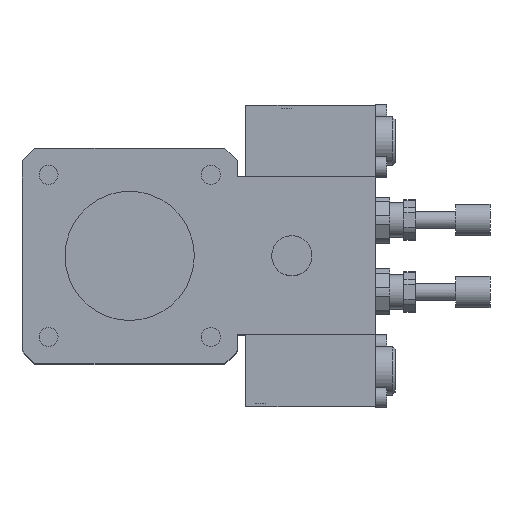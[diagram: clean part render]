
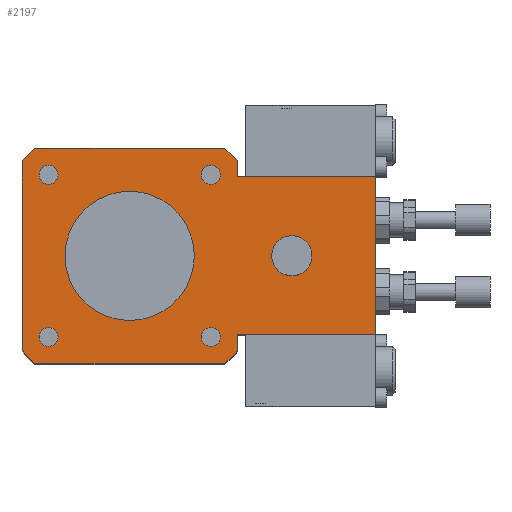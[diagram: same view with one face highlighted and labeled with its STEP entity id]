
A CAD part, top view. The second image highlights one B-rep face of the part: STEP entity #2197.
In plain terms, the highlighted planar face has unit normal (0, 0, 1).
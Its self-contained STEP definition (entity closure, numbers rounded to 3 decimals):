
#133=CARTESIAN_POINT('',(-28.25,24.927,196.0));
#134=VERTEX_POINT('',#133);
#135=CARTESIAN_POINT('',(-28.25,28.25,196.0));
#136=DIRECTION('',(0.0,0.0,-1.0));
#137=DIRECTION('',(0.0,-1.0,0.0));
#138=AXIS2_PLACEMENT_3D('',#135,#136,#137);
#139=CIRCLE('',#138,3.324);
#140=EDGE_CURVE('',#134,#134,#139,.T.);
#191=CARTESIAN_POINT('',(24.927,28.25,196.0));
#192=VERTEX_POINT('',#191);
#193=CARTESIAN_POINT('',(28.25,28.25,196.0));
#194=DIRECTION('',(0.0,0.0,-1.0));
#195=DIRECTION('',(-1.0,0.0,0.0));
#196=AXIS2_PLACEMENT_3D('',#193,#194,#195);
#197=CIRCLE('',#196,3.324);
#198=EDGE_CURVE('',#192,#192,#197,.T.);
#249=CARTESIAN_POINT('',(28.25,-24.927,196.0));
#250=VERTEX_POINT('',#249);
#251=CARTESIAN_POINT('',(28.25,-28.25,196.0));
#252=DIRECTION('',(0.0,0.0,-1.0));
#253=DIRECTION('',(0.0,1.0,0.0));
#254=AXIS2_PLACEMENT_3D('',#251,#252,#253);
#255=CIRCLE('',#254,3.324);
#256=EDGE_CURVE('',#250,#250,#255,.T.);
#307=CARTESIAN_POINT('',(-24.927,-28.25,196.0));
#308=VERTEX_POINT('',#307);
#309=CARTESIAN_POINT('',(-28.25,-28.25,196.0));
#310=DIRECTION('',(0.0,0.0,-1.0));
#311=DIRECTION('',(1.0,0.0,0.0));
#312=AXIS2_PLACEMENT_3D('',#309,#310,#311);
#313=CIRCLE('',#312,3.324);
#314=EDGE_CURVE('',#308,#308,#313,.T.);
#791=CARTESIAN_POINT('',(50.,0.0,196.0));
#792=VERTEX_POINT('',#791);
#793=CARTESIAN_POINT('',(56.5,0.0,196.0));
#794=DIRECTION('',(0.0,0.0,-1.0));
#795=DIRECTION('',(-1.0,0.0,0.0));
#796=AXIS2_PLACEMENT_3D('',#793,#794,#795);
#797=CIRCLE('',#796,6.5);
#798=EDGE_CURVE('',#792,#792,#797,.T.);
#1418=CARTESIAN_POINT('',(85.5,27.5,196.0));
#1419=VERTEX_POINT('',#1418);
#1444=CARTESIAN_POINT('',(37.5,27.5,196.0));
#1445=VERTEX_POINT('',#1444);
#1452=CARTESIAN_POINT('',(37.5,27.5,196.0));
#1453=DIRECTION('',(1.0,0.0,0.0));
#1454=VECTOR('',#1453,48.);
#1455=LINE('',#1452,#1454);
#1456=EDGE_CURVE('',#1445,#1419,#1455,.T.);
#1512=CARTESIAN_POINT('',(85.5,-27.5,196.0));
#1513=VERTEX_POINT('',#1512);
#1520=CARTESIAN_POINT('',(37.5,-27.5,196.0));
#1521=VERTEX_POINT('',#1520);
#1522=CARTESIAN_POINT('',(37.5,-27.5,196.0));
#1523=DIRECTION('',(1.0,0.0,0.0));
#1524=VECTOR('',#1523,48.);
#1525=LINE('',#1522,#1524);
#1526=EDGE_CURVE('',#1521,#1513,#1525,.T.);
#1581=CARTESIAN_POINT('',(85.5,-27.5,196.0));
#1582=DIRECTION('',(0.0,1.0,0.0));
#1583=VECTOR('',#1582,55.0);
#1584=LINE('',#1581,#1583);
#1585=EDGE_CURVE('',#1513,#1419,#1584,.T.);
#1604=CARTESIAN_POINT('',(37.5,-33.072,196.0));
#1605=VERTEX_POINT('',#1604);
#1606=CARTESIAN_POINT('',(37.5,-27.5,196.0));
#1607=DIRECTION('',(0.0,-1.0,0.0));
#1608=VECTOR('',#1607,5.572);
#1609=LINE('',#1606,#1608);
#1610=EDGE_CURVE('',#1521,#1605,#1609,.T.);
#1643=CARTESIAN_POINT('',(37.5,33.072,196.0));
#1644=VERTEX_POINT('',#1643);
#1651=CARTESIAN_POINT('',(37.5,33.072,196.0));
#1652=DIRECTION('',(0.0,-1.0,0.0));
#1653=VECTOR('',#1652,5.572);
#1654=LINE('',#1651,#1653);
#1655=EDGE_CURVE('',#1644,#1445,#1654,.T.);
#1682=CARTESIAN_POINT('',(-22.5,0.0,196.0));
#1683=VERTEX_POINT('',#1682);
#1684=CARTESIAN_POINT('',(0.0,0.0,196.0));
#1685=DIRECTION('',(0.0,0.0,-1.0));
#1686=DIRECTION('',(-1.0,0.0,0.0));
#1687=AXIS2_PLACEMENT_3D('',#1684,#1685,#1686);
#1688=CIRCLE('',#1687,22.5);
#1689=EDGE_CURVE('',#1683,#1683,#1688,.T.);
#1997=CARTESIAN_POINT('',(33.072,37.5,196.0));
#1998=VERTEX_POINT('',#1997);
#1999=CARTESIAN_POINT('',(0.,0.,196.0));
#2000=DIRECTION('',(0.,0.,-1.0));
#2001=DIRECTION('',(-0.75,-0.661,0.));
#2002=AXIS2_PLACEMENT_3D('',#1999,#2000,#2001);
#2003=CIRCLE('',#2002,50.0);
#2004=EDGE_CURVE('',#1998,#1644,#2003,.T.);
#2022=CARTESIAN_POINT('',(33.072,-37.5,196.0));
#2023=VERTEX_POINT('',#2022);
#2024=CARTESIAN_POINT('',(0.,0.,196.0));
#2025=DIRECTION('',(0.,0.,-1.));
#2026=DIRECTION('',(-0.661,0.75,0.));
#2027=AXIS2_PLACEMENT_3D('',#2024,#2025,#2026);
#2028=CIRCLE('',#2027,50.);
#2029=EDGE_CURVE('',#1605,#2023,#2028,.T.);
#2047=CARTESIAN_POINT('',(-33.072,-37.5,196.0));
#2048=VERTEX_POINT('',#2047);
#2049=CARTESIAN_POINT('',(33.072,-37.5,196.0));
#2050=DIRECTION('',(-1.0,0.0,0.0));
#2051=VECTOR('',#2050,66.144);
#2052=LINE('',#2049,#2051);
#2053=EDGE_CURVE('',#2023,#2048,#2052,.T.);
#2074=CARTESIAN_POINT('',(-37.5,-33.072,196.0));
#2075=VERTEX_POINT('',#2074);
#2076=CARTESIAN_POINT('',(0.,0.,196.0));
#2077=DIRECTION('',(0.,0.,-1.0));
#2078=DIRECTION('',(0.75,0.661,0.));
#2079=AXIS2_PLACEMENT_3D('',#2076,#2077,#2078);
#2080=CIRCLE('',#2079,50.);
#2081=EDGE_CURVE('',#2048,#2075,#2080,.T.);
#2099=CARTESIAN_POINT('',(-37.5,33.072,196.0));
#2100=VERTEX_POINT('',#2099);
#2101=CARTESIAN_POINT('',(-37.5,-33.072,196.0));
#2102=DIRECTION('',(0.0,1.0,0.0));
#2103=VECTOR('',#2102,66.144);
#2104=LINE('',#2101,#2103);
#2105=EDGE_CURVE('',#2075,#2100,#2104,.T.);
#2123=CARTESIAN_POINT('',(-33.072,37.5,196.0));
#2124=VERTEX_POINT('',#2123);
#2125=CARTESIAN_POINT('',(0.,0.,196.0));
#2126=DIRECTION('',(0.,0.,-1.));
#2127=DIRECTION('',(0.661,-0.75,0.));
#2128=AXIS2_PLACEMENT_3D('',#2125,#2126,#2127);
#2129=CIRCLE('',#2128,50.0);
#2130=EDGE_CURVE('',#2100,#2124,#2129,.T.);
#2148=CARTESIAN_POINT('',(-33.072,37.5,196.0));
#2149=DIRECTION('',(1.0,0.0,0.0));
#2150=VECTOR('',#2149,66.144);
#2151=LINE('',#2148,#2150);
#2152=EDGE_CURVE('',#2124,#1998,#2151,.T.);
#2160=CARTESIAN_POINT('',(0.,0.,196.0));
#2161=DIRECTION('',(0.0,0.0,1.0));
#2162=DIRECTION('',(1.0,0.0,0.0));
#2163=AXIS2_PLACEMENT_3D('',#2160,#2161,#2162);
#2164=PLANE('',#2163);
#2165=ORIENTED_EDGE('',*,*,#2004,.F.);
#2166=ORIENTED_EDGE('',*,*,#2152,.F.);
#2167=ORIENTED_EDGE('',*,*,#2130,.F.);
#2168=ORIENTED_EDGE('',*,*,#2105,.F.);
#2169=ORIENTED_EDGE('',*,*,#2081,.F.);
#2170=ORIENTED_EDGE('',*,*,#2053,.F.);
#2171=ORIENTED_EDGE('',*,*,#2029,.F.);
#2172=ORIENTED_EDGE('',*,*,#1610,.F.);
#2173=ORIENTED_EDGE('',*,*,#1526,.T.);
#2174=ORIENTED_EDGE('',*,*,#1585,.T.);
#2175=ORIENTED_EDGE('',*,*,#1456,.F.);
#2176=ORIENTED_EDGE('',*,*,#1655,.F.);
#2177=EDGE_LOOP('',(#2165,#2166,#2167,#2168,#2169,#2170,#2171,#2172,#2173,#2174,#2175,#2176));
#2178=FACE_OUTER_BOUND('',#2177,.T.);
#2179=ORIENTED_EDGE('',*,*,#140,.T.);
#2180=EDGE_LOOP('',(#2179));
#2181=FACE_BOUND('',#2180,.T.);
#2182=ORIENTED_EDGE('',*,*,#198,.T.);
#2183=EDGE_LOOP('',(#2182));
#2184=FACE_BOUND('',#2183,.T.);
#2185=ORIENTED_EDGE('',*,*,#256,.T.);
#2186=EDGE_LOOP('',(#2185));
#2187=FACE_BOUND('',#2186,.T.);
#2188=ORIENTED_EDGE('',*,*,#314,.T.);
#2189=EDGE_LOOP('',(#2188));
#2190=FACE_BOUND('',#2189,.T.);
#2191=ORIENTED_EDGE('',*,*,#798,.T.);
#2192=EDGE_LOOP('',(#2191));
#2193=FACE_BOUND('',#2192,.T.);
#2194=ORIENTED_EDGE('',*,*,#1689,.T.);
#2195=EDGE_LOOP('',(#2194));
#2196=FACE_BOUND('',#2195,.T.);
#2197=ADVANCED_FACE('',(#2178,#2181,#2184,#2187,#2190,#2193,#2196),#2164,.T.);
